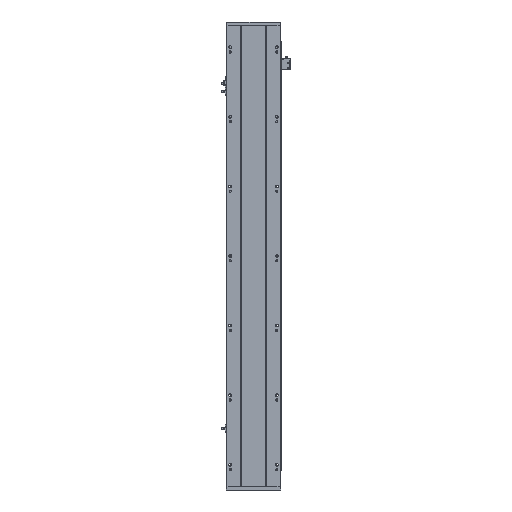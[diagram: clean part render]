
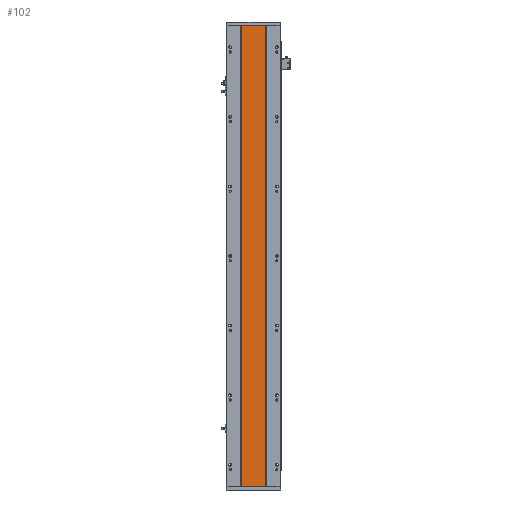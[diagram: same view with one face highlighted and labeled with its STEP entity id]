
A CAD part, front view. The second image highlights one B-rep face of the part: STEP entity #102.
In plain terms, the highlighted planar face has unit normal (0, -1, 0).
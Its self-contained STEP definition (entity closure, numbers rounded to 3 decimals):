
#102 = ADVANCED_FACE ( 'NONE', ( #7057 ), #14595, .F. ) ;
#409 = VECTOR ( 'NONE', #9439, 1000. ) ;
#1348 = VERTEX_POINT ( 'NONE', #30327 ) ;
#2258 = VERTEX_POINT ( 'NONE', #25103 ) ;
#2307 = EDGE_CURVE ( 'NONE', #22591, #28668, #5280, .T. ) ;
#5280 = LINE ( 'NONE', #18746, #6531 ) ;
#6105 = EDGE_CURVE ( 'NONE', #2258, #1348, #18220, .T. ) ;
#6531 = VECTOR ( 'NONE', #13398, 1000. ) ;
#7057 = FACE_OUTER_BOUND ( 'NONE', #8957, .T. ) ;
#7652 = ORIENTED_EDGE ( 'NONE', *, *, #9295, .T. ) ;
#8957 = EDGE_LOOP ( 'NONE', ( #7652, #32854, #17463, #31206 ) ) ;
#9295 = EDGE_CURVE ( 'NONE', #28668, #1348, #15156, .T. ) ;
#9439 = DIRECTION ( 'NONE',  ( 0., 0., -1. ) ) ;
#12249 = CARTESIAN_POINT ( 'NONE',  ( 129.288, 16.9, 1432. ) ) ;
#13398 = DIRECTION ( 'NONE',  ( 0., 0., -1. ) ) ;
#14180 = CARTESIAN_POINT ( 'NONE',  ( 205.288, 16.9, 0. ) ) ;
#14595 = PLANE ( 'NONE',  #17614 ) ;
#14706 = CARTESIAN_POINT ( 'NONE',  ( 205.288, 16.9, 1432. ) ) ;
#15156 = LINE ( 'NONE', #14180, #23918 ) ;
#15714 = LINE ( 'NONE', #12249, #16559 ) ;
#16559 = VECTOR ( 'NONE', #30974, 1000. ) ;
#17277 = CARTESIAN_POINT ( 'NONE',  ( 129.288, 16.9, 1432. ) ) ;
#17463 = ORIENTED_EDGE ( 'NONE', *, *, #30724, .F. ) ;
#17614 = AXIS2_PLACEMENT_3D ( 'NONE', #14706, #33301, #20157 ) ;
#18220 = LINE ( 'NONE', #25673, #409 ) ;
#18746 = CARTESIAN_POINT ( 'NONE',  ( 129.288, 16.9, 1432. ) ) ;
#20157 = DIRECTION ( 'NONE',  ( -1., 0., 0. ) ) ;
#22591 = VERTEX_POINT ( 'NONE', #17277 ) ;
#23918 = VECTOR ( 'NONE', #30209, 1000. ) ;
#23944 = CARTESIAN_POINT ( 'NONE',  ( 129.288, 16.9, 0. ) ) ;
#25103 = CARTESIAN_POINT ( 'NONE',  ( 205.288, 16.9, 1432. ) ) ;
#25673 = CARTESIAN_POINT ( 'NONE',  ( 205.288, 16.9, 1432. ) ) ;
#28668 = VERTEX_POINT ( 'NONE', #23944 ) ;
#30209 = DIRECTION ( 'NONE',  ( 1., 0., 0. ) ) ;
#30327 = CARTESIAN_POINT ( 'NONE',  ( 205.288, 16.9, 0. ) ) ;
#30724 = EDGE_CURVE ( 'NONE', #22591, #2258, #15714, .T. ) ;
#30974 = DIRECTION ( 'NONE',  ( 1., 0., 0. ) ) ;
#31206 = ORIENTED_EDGE ( 'NONE', *, *, #2307, .T. ) ;
#32854 = ORIENTED_EDGE ( 'NONE', *, *, #6105, .F. ) ;
#33301 = DIRECTION ( 'NONE',  ( 0., 1., 0. ) ) ;
